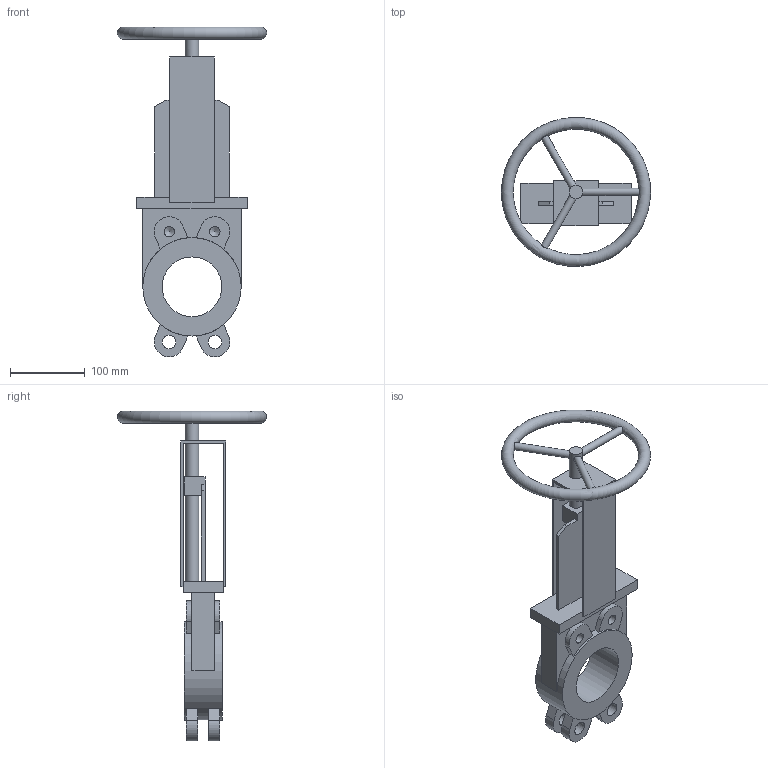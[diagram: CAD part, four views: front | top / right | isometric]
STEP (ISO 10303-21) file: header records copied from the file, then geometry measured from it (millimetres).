
FILE_DESCRIPTION(('STEP AP203'), '1');
FILE_NAME('Çàäâèæêà øèáåðíàÿ ìåæôëàíöåâàÿ K51GV DN80', '', ('UNSPECIFIED'), ('UNSPECIFIED'), 'ASCON STEP Converter 1.6', 'ASCON Math Kernel', '');
FILE_SCHEMA(('CONFIG_CONTROL_DESIGN'));
Length unit declared in the file: millimetre
Bounding box: 199.97 x 199.7 x 441.89 mm (x, y, z)
Volume: 1207462.6 mm3; surface area: 232837.2 mm2
Topology: 1 solids, 1 shells, 93 faces, 252 edges, 165 vertices
Faces by surface type: plane 64, cylinder 24, cone 4, torus 1
Full cylindrical faces by diameter (mm): 10 x3, 13.835 x4, 18 x7, 80 x1, 132 x1
Entity records: 4749 total; most frequent: CARTESIAN_POINT 1665, DIRECTION 466, ORIENTED_EDGE 448, EDGE_CURVE 224, VERTEX_POINT 160, AXIS2_PLACEMENT_3D 156, LINE 154, VECTOR 154
